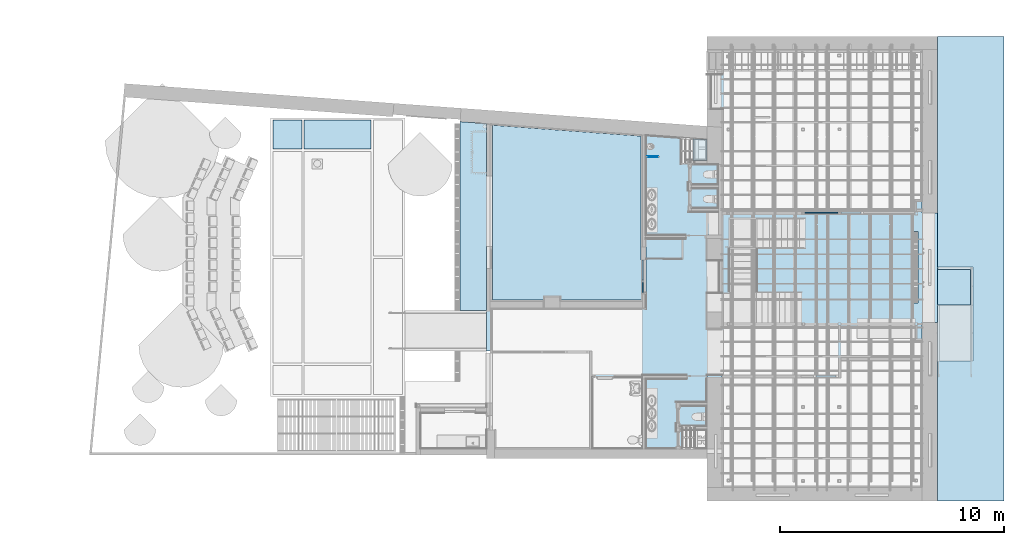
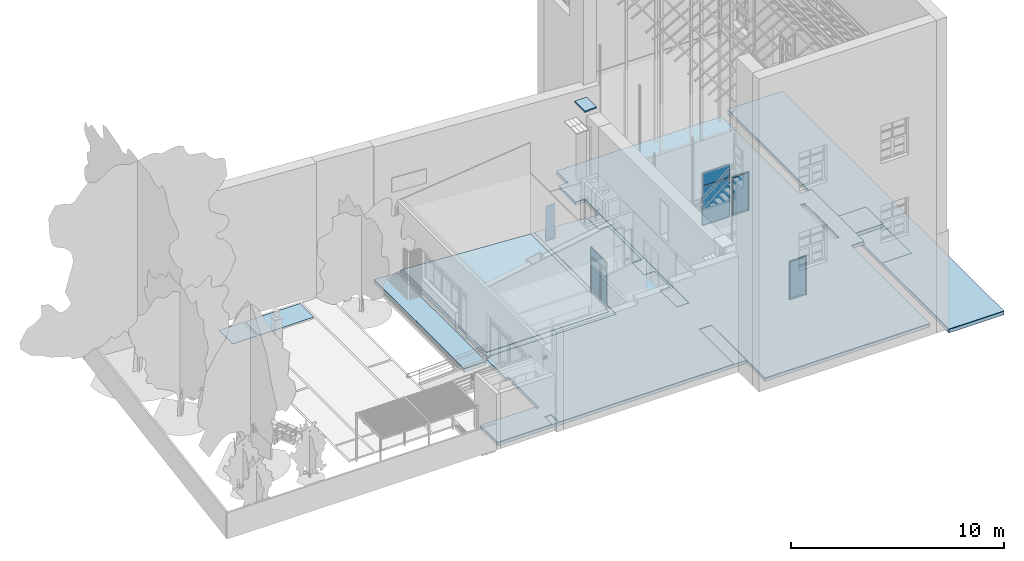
# One storey, part 31 of 75: 12 slabs, 8 plates, 2 openings, 6 elements without a shape of their own.
"""IFC2X3 building model written with IfcOpenShell, lengths in metres."""

import ifcopenshell
import ifcopenshell.guid

model = None  # the IFC model being written
_history = None  # IfcOwnerHistory: only IFC2X3 demands one
_inside = {}  # id of a spatial element -> (the spatial element, [elements in it])
_under = {}  # id of a project, library or spatial element -> (it, [spatial elements below it])
_declared = {}  # id of a project -> (the project, [libraries it declares])
_typed = {}  # id of a type object -> (the type object, [elements of that type])
_made_of = {}  # id of a material, layer set ... -> (it, [elements and type objects made of it])


def new_model(schema):
    """Start an empty IFC model of exactly this schema.

    Asked for "IFC4X3", IfcOpenShell would pick the latest addendum, in which some entities
    have other attributes; the version numbers below select the first issue.
    IFC2X3 requires an IfcOwnerHistory on every rooted entity: one is made here for all.
    """
    global model, _history
    if schema == "IFC4X3":
        model = ifcopenshell.file(schema_version=(4, 3, 0, 0))
    else:
        model = ifcopenshell.file(schema=schema)
    _inside.clear()
    _under.clear()
    _declared.clear()
    _typed.clear()
    _made_of.clear()
    _history = None
    if model.schema == "IFC2X3":
        org = make("IfcOrganization", Name="unknown")
        user = make(
            "IfcPersonAndOrganization",
            ThePerson=make("IfcPerson", FamilyName="unknown"),
            TheOrganization=org,
        )
        app = make(
            "IfcApplication",
            ApplicationDeveloper=org,
            Version="unknown",
            ApplicationFullName="unknown",
            ApplicationIdentifier="unknown",
        )
        _history = make(
            "IfcOwnerHistory",
            OwningUser=user,
            OwningApplication=app,
            ChangeAction="ADDED",
            CreationDate=0,
        )
    return model


def make(cls, **values):
    """One entity of the class cls with the attributes given. An attribute that is None is left unset."""
    return model.create_entity(
        cls, **{name: value for name, value in values.items() if value is not None}
    )


def entity(cls, *values):
    """Any entity or typed value of the class cls, its attributes in the order of the schema. None: left unset."""
    e = model.create_entity(cls)
    for i, value in enumerate(values):
        if value is not None:
            e[i] = value
    return e


def rooted(cls, **values):
    """An entity with a GlobalId (a new one), such as an element, a storey or a relation."""
    return make(cls, GlobalId=ifcopenshell.guid.new(), OwnerHistory=_history, **values)


def si_unit(unit_type, name, prefix=None):
    """IfcSIUnit, for example si_unit("LENGTHUNIT", "METRE", prefix="MILLI")."""
    return make("IfcSIUnit", UnitType=unit_type, Prefix=prefix, Name=name)


def converted_unit(unit_type, name, factor, base, dimensions=None, offset=None):
    """IfcConversionBasedUnit, such as the inch: factor (a typed value) times the base unit."""
    return make(
        "IfcConversionBasedUnit"
        if offset is None
        else "IfcConversionBasedUnitWithOffset",
        ConversionOffset=offset,
        Dimensions=None
        if dimensions is None
        else entity("IfcDimensionalExponents", *dimensions),
        UnitType=unit_type,
        Name=name,
        ConversionFactor=make(
            "IfcMeasureWithUnit", ValueComponent=factor, UnitComponent=base
        ),
    )


def derived_unit(unit_type, elements):
    """IfcDerivedUnit: a product of units, each with its exponent."""
    return make(
        "IfcDerivedUnit",
        Elements=[
            make("IfcDerivedUnitElement", Unit=unit, Exponent=power)
            for unit, power in elements
        ],
        UnitType=unit_type,
    )


def assignment(units):
    """IfcUnitAssignment: the units of a project."""
    return None if units is None else make("IfcUnitAssignment", Units=units)


def point(xyz):
    """IfcCartesianPoint."""
    return None if xyz is None else make("IfcCartesianPoint", Coordinates=xyz)


def direction(xyz):
    """IfcDirection."""
    return None if xyz is None else make("IfcDirection", DirectionRatios=xyz)


def frame(location, z_axis=None, x_axis=None):
    """IfcAxis2Placement3D, a coordinate frame: its origin and axes. An axis left out is left unset."""
    return make(
        "IfcAxis2Placement3D",
        Location=point(location),
        Axis=direction(z_axis),
        RefDirection=direction(x_axis),
    )


def frame_2d(location, x_axis=None):
    """IfcAxis2Placement2D, a coordinate frame in the plane: its origin and x axis."""
    return make(
        "IfcAxis2Placement2D", Location=point(location), RefDirection=direction(x_axis)
    )


def origin():
    """The frame at (0, 0, 0) with its axes left unset."""
    return frame((0.0, 0.0, 0.0))


def origin_2d_with_axis():
    """The frame at (0, 0) in the plane with the x axis (1, 0) written out."""
    return frame_2d((0.0, 0.0), x_axis=(1.0, 0.0))


def place(relative_to, where):
    """IfcLocalPlacement: puts the frame where relative to a parent placement (None: the world)."""
    return make(
        "IfcLocalPlacement", PlacementRelTo=relative_to, RelativePlacement=where
    )


def context(
    kind, dimensions, precision=None, world=None, true_north=None, identifier=None
):
    """IfcGeometricRepresentationContext, for example the 3D "Model" context."""
    return make(
        "IfcGeometricRepresentationContext",
        ContextIdentifier=identifier,
        ContextType=kind,
        CoordinateSpaceDimension=dimensions,
        Precision=precision,
        WorldCoordinateSystem=world,
        TrueNorth=true_north,
    )


def subcontext(parent, identifier, kind, view, scale=None):
    """IfcGeometricRepresentationSubContext, for example "Body" below "Model"."""
    return make(
        "IfcGeometricRepresentationSubContext",
        ContextIdentifier=identifier,
        ContextType=kind,
        ParentContext=parent,
        TargetScale=scale,
        TargetView=view,
    )


def project(units=None, contexts=None):
    """IfcProject with its units and contexts."""
    return rooted(
        "IfcProject",
        Name="project",
        RepresentationContexts=contexts,
        UnitsInContext=assignment(units),
    )


def spatial(cls, under=None, at=None, **own):
    """A site, building, storey or space (cls), placed at a placement, below another one or the project."""
    s = rooted(cls, ObjectPlacement=at, **own)
    if under is not None:
        _under.setdefault(under.id(), (under, []))[1].append(s)
    return s


def polyline(points):
    """IfcPolyline through the points."""
    return make("IfcPolyline", Points=[point(p) for p in points])


def profile(cls, at=None, kind="AREA", **sizes):
    """A parametric profile (cls). Its sizes go by their IFC names, for example OverallWidth=200.0."""
    return make(cls, ProfileType=kind, Position=at, **sizes)


def rectangle(**sizes):
    """IfcRectangleProfileDef."""
    return profile("IfcRectangleProfileDef", **sizes)


def outline(outer, holes=None, kind="AREA"):
    """IfcArbitraryClosedProfileDef: a profile drawn as a closed curve; with holes, ...WithVoids."""
    if holes is None:
        return make("IfcArbitraryClosedProfileDef", ProfileType=kind, OuterCurve=outer)
    return make(
        "IfcArbitraryProfileDefWithVoids",
        ProfileType=kind,
        OuterCurve=outer,
        InnerCurves=holes,
    )


def extrude(swept, where, along, depth):
    """IfcExtrudedAreaSolid: the profile swept, set in the frame where, extruded along a direction by depth."""
    return make(
        "IfcExtrudedAreaSolid",
        SweptArea=swept,
        Position=where,
        ExtrudedDirection=direction(along),
        Depth=depth,
    )


def shape(context_of_items, identifier, shape_type, items):
    """IfcShapeRepresentation: the items that make up one representation, for example the "Body"."""
    return make(
        "IfcShapeRepresentation",
        ContextOfItems=context_of_items,
        RepresentationIdentifier=identifier,
        RepresentationType=shape_type,
        Items=items,
    )


def source(mapping_origin, context_of_items, identifier, shape_type, items):
    """IfcRepresentationMap: a shape defined once, which mapped items show again and again."""
    return make(
        "IfcRepresentationMap",
        MappingOrigin=mapping_origin,
        MappedRepresentation=shape(context_of_items, identifier, shape_type, items),
    )


def transform(
    local_origin,
    x_axis=None,
    y_axis=None,
    z_axis=None,
    scale=None,
    scale2=None,
    scale3=None,
    uniform=True,
):
    """IfcCartesianTransformationOperator3D, or its non-uniform kind. x_axis, y_axis, z_axis: its Axis1, 2, 3."""
    if uniform:
        return make(
            "IfcCartesianTransformationOperator3D",
            Axis1=direction(x_axis),
            Axis2=direction(y_axis),
            LocalOrigin=point(local_origin),
            Scale=scale,
            Axis3=direction(z_axis),
        )
    return make(
        "IfcCartesianTransformationOperator3DnonUniform",
        Axis1=direction(x_axis),
        Axis2=direction(y_axis),
        LocalOrigin=point(local_origin),
        Scale=scale,
        Axis3=direction(z_axis),
        Scale2=scale2,
        Scale3=scale3,
    )


def mapped(mapping_source, mapping_target):
    """IfcMappedItem: shows the shape of a source again, moved by a transform."""
    return make(
        "IfcMappedItem", MappingSource=mapping_source, MappingTarget=mapping_target
    )


def material(Name=None, Category=None):
    """IfcMaterial."""
    return make("IfcMaterial", Name=Name, Category=Category)


def material_list(materials):
    """IfcMaterialList."""
    return make("IfcMaterialList", Materials=materials)


def layer(
    of_material, thickness, ventilated=None, Name=None, Category=None, Priority=None
):
    """IfcMaterialLayer: one layer of a wall or slab, of a material (None: an air gap)."""
    return make(
        "IfcMaterialLayer",
        Material=of_material,
        LayerThickness=thickness,
        IsVentilated=ventilated,
        Name=Name,
        Category=Category,
        Priority=Priority,
    )


def layer_set(layers, Name=None):
    """IfcMaterialLayerSet."""
    return make("IfcMaterialLayerSet", MaterialLayers=layers, LayerSetName=Name)


def layer_usage(for_layer_set, set_direction, sense, offset, extent=None):
    """IfcMaterialLayerSetUsage: how a layer set lies in its element."""
    return make(
        "IfcMaterialLayerSetUsage",
        ForLayerSet=for_layer_set,
        LayerSetDirection=set_direction,
        DirectionSense=sense,
        OffsetFromReferenceLine=offset,
        ReferenceExtent=extent,
    )


def made_of(thing, what):
    """Note that an element or type object is made of a material, layer set ...; save() writes the relation."""
    if what is not None:
        _made_of.setdefault(what.id(), (what, []))[1].append(thing)
    return thing


def type_object(cls, material=None, **own):
    """A type object (cls), such as IfcWallType, which elements share."""
    return made_of(rooted(cls, **own), material)


def type_shapes(of_type, sources):
    """Give a type object the sources (RepresentationMaps) that its elements show as mapped items."""
    of_type.RepresentationMaps = sources


def element(
    cls,
    number,
    at=None,
    inside=None,
    cuts=None,
    type_object=None,
    material=None,
    context=None,
    identifier="Body",
    shape_type=None,
    held_by="IfcProductDefinitionShape",
    body=None,
    shapes=None,
    **own,
):
    """One element of the class cls, such as IfcWall. Its Tag is "e" and its number.

    at: its placement. inside: the storey or other place that contains it. cuts: it is an
    opening in that element (IfcRelVoidsElement). A single representation is given by context,
    identifier, shape_type and body (its items); several are given by shapes. held_by: the class
    of the entity that holds the representations. save() writes the other relations.
    """
    e = rooted(cls, Tag="e%d" % number, ObjectPlacement=at, **own)
    if body is not None:
        shapes = [shape(context, identifier, shape_type, body)]
    if shapes is not None:
        e.Representation = make(held_by, Representations=shapes)
    if inside is not None:
        _inside.setdefault(inside.id(), (inside, []))[1].append(e)
    if cuts is not None:
        rooted(
            "IfcRelVoidsElement", RelatingBuildingElement=cuts, RelatedOpeningElement=e
        )
    if type_object is not None:
        _typed.setdefault(type_object.id(), (type_object, []))[1].append(e)
    return made_of(e, material)


def aggregate(whole, parts):
    """IfcRelAggregates: a whole, such as a stair, and the parts it consists of."""
    return rooted("IfcRelAggregates", RelatingObject=whole, RelatedObjects=parts)


def save(model, path):
    """Write the relations noted so far, then the file.

    IfcRelAggregates (storeys below a building ...), IfcRelContainedInSpatialStructure (elements
    in a storey), IfcRelDefinesByType, IfcRelAssociatesMaterial and IfcRelDeclares: one each for
    every whole, place, type object, material and project.
    """
    for whole, parts in _under.values():
        aggregate(whole, parts)
    for where, things in _inside.values():
        rooted(
            "IfcRelContainedInSpatialStructure",
            RelatedElements=things,
            RelatingStructure=where,
        )
    for kind, things in _typed.values():
        rooted("IfcRelDefinesByType", RelatedObjects=things, RelatingType=kind)
    for what, things in _made_of.values():
        rooted("IfcRelAssociatesMaterial", RelatedObjects=things, RelatingMaterial=what)
    for by, libraries in _declared.values():
        rooted("IfcRelDeclares", RelatingContext=by, RelatedDefinitions=libraries)
    model.write(path)


model = new_model("IFC2X3")

# Units and contexts
model_context = context("Model", 3, precision=1e-05, world=origin(), true_north=direction((6.12303176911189e-17, 1.0)))
body_context = subcontext(model_context, "Body", "Model", "MODEL_VIEW")
ifc_project = project(units=[si_unit("LENGTHUNIT", "METRE"), si_unit("AREAUNIT", "SQUARE_METRE"), si_unit("VOLUMEUNIT", "CUBIC_METRE"), converted_unit("PLANEANGLEUNIT", "DEGREE", entity("IfcRatioMeasure", 0.0174532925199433), si_unit("PLANEANGLEUNIT", "RADIAN"), dimensions=[0, 0, 0, 0, 0, 0, 0]), si_unit("MASSUNIT", "GRAM", prefix="KILO"), derived_unit("MASSDENSITYUNIT", [(si_unit("MASSUNIT", "GRAM", prefix="KILO"), 1), (si_unit("LENGTHUNIT", "METRE"), -3)]), derived_unit("MOMENTOFINERTIAUNIT", [(si_unit("LENGTHUNIT", "METRE"), 4)]), si_unit("TIMEUNIT", "SECOND"), si_unit("FREQUENCYUNIT", "HERTZ"), si_unit("THERMODYNAMICTEMPERATUREUNIT", "DEGREE_CELSIUS"), derived_unit("THERMALTRANSMITTANCEUNIT", [(si_unit("MASSUNIT", "GRAM", prefix="KILO"), 1), (si_unit("THERMODYNAMICTEMPERATUREUNIT", "KELVIN"), -1), (si_unit("TIMEUNIT", "SECOND"), -3)]), derived_unit("VOLUMETRICFLOWRATEUNIT", [(si_unit("LENGTHUNIT", "METRE"), 3), (si_unit("TIMEUNIT", "SECOND"), -1)]), si_unit("ELECTRICCURRENTUNIT", "AMPERE"), si_unit("ELECTRICVOLTAGEUNIT", "VOLT"), si_unit("POWERUNIT", "WATT"), si_unit("FORCEUNIT", "NEWTON", prefix="KILO"), si_unit("ILLUMINANCEUNIT", "LUX"), si_unit("LUMINOUSFLUXUNIT", "LUMEN"), si_unit("LUMINOUSINTENSITYUNIT", "CANDELA"), derived_unit("USERDEFINED", [(si_unit("MASSUNIT", "GRAM", prefix="KILO"), -1), (si_unit("LENGTHUNIT", "METRE"), -2), (si_unit("TIMEUNIT", "SECOND"), 3), (si_unit("LUMINOUSFLUXUNIT", "LUMEN"), 1)]), derived_unit("LINEARVELOCITYUNIT", [(si_unit("LENGTHUNIT", "METRE"), 1), (si_unit("TIMEUNIT", "SECOND"), -1)]), si_unit("PRESSUREUNIT", "PASCAL"), derived_unit("USERDEFINED", [(si_unit("LENGTHUNIT", "METRE"), -2), (si_unit("MASSUNIT", "GRAM", prefix="KILO"), 1), (si_unit("TIMEUNIT", "SECOND"), -2)]), derived_unit("LINEARFORCEUNIT", [(si_unit("MASSUNIT", "GRAM", prefix="KILO"), 1), (si_unit("LENGTHUNIT", "METRE"), 1), (si_unit("TIMEUNIT", "SECOND"), -2), (si_unit("LENGTHUNIT", "METRE"), -1)]), derived_unit("PLANARFORCEUNIT", [(si_unit("MASSUNIT", "GRAM", prefix="KILO"), 1), (si_unit("LENGTHUNIT", "METRE"), 1), (si_unit("TIMEUNIT", "SECOND"), -2), (si_unit("LENGTHUNIT", "METRE"), -2)])], contexts=[model_context])

# Site, building, storey
site_placement = place(None, origin())
site = spatial("IfcSite", under=ifc_project, at=site_placement, Name="Superficie", CompositionType="ELEMENT")
building_placement = place(site_placement, origin())
building = spatial("IfcBuilding", under=site, at=building_placement, Name="Telegestiones", CompositionType="ELEMENT")
storey_placement = place(building_placement, origin())
storey = spatial("IfcBuildingStorey", under=building, at=storey_placement, Name="Nivel 0_NPT", CompositionType="ELEMENT", Elevation=0.0)

# Slab, opening
ifc_material_1 = material(Name="Suelo por defecto")
ifc_layer_1 = layer(ifc_material_1, 0.18)
ifc_layer_set_1 = layer_set([ifc_layer_1], Name="Suelo:ARQ-SU-18 HoA")
ifc_layer_usage_1 = layer_usage(ifc_layer_set_1, "AXIS3", "POSITIVE", 0.0)
slab_type_1 = type_object("IfcSlabType", Name="Suelo:ARQ-SU-18 HoA", PredefinedType="FLOOR", material=ifc_layer_set_1)
slab_1_placement = place(storey_placement, frame((-7.44518737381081, -5.8063671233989, -0.2)))
slab_1 = element("IfcSlab", 1, at=slab_1_placement, inside=storey, type_object=slab_type_1, material=ifc_layer_usage_1, Name="Suelo:ARQ-SU-18 HoA", ObjectType="Suelo:ARQ-SU-18 HoA", PredefinedType="FLOOR", context=body_context, shape_type="SweptSolid", body=[
    extrude(outline(polyline([(-10.865, 9.77498717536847), (-10.865, 2.48998713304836), (-11.5449999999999, 2.48998713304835), (-11.5449999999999, -2.41001286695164), (-10.865, -2.41001286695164), (-10.865, -9.77498717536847), (-1.93447715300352, -9.7749871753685), (-1.93447715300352, -8.0550128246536), (8.22500000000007, -8.0550128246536), (11.545, -8.05501282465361), (11.545, -6.43501282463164), (8.58499999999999, -6.43501282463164), (8.58499999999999, -6.5550128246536), (8.43500000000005, -6.5550128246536), (8.43500000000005, -3.67473216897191), (8.58500000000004, -3.67473216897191), (8.58500000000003, -1.87501282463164), (8.43500000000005, -1.87501282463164), (8.43500000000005, -1.65962417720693), (8.43500000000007, 6.46391269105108), (-1.93447715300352, 5.70481248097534), (-1.93447715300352, 7.13998717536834), (-1.44947715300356, 7.13998717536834), (-1.44947715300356, 8.65998717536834), (-1.93447715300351, 8.65998717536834), (-1.93447715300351, 9.77498717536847), (-10.865, 9.77498717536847)])), frame((11.545, 9.7749871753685, 0.18), z_axis=(0.0, 0.0, -1.0), x_axis=(-1.0, 0.0, 0.0)), (0.0, 0.0, 1.0), 0.18),
])
opening_1_placement = place(slab_1_placement, frame((22.1172565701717, 9.83040390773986, 0.18)))
element("IfcOpeningElement", 2, at=opening_1_placement, cuts=slab_1, Name="Suelo:ARQ-SU-18 HoA:2", ObjectType="Opening", context=body_context, shape_type="SweptSolid", body=[
    extrude(rectangle(XDim=0.239999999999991, YDim=3.2, at=origin_2d_with_axis()), frame((0.0, 0.0, 0.0), z_axis=(0.0, 0.0, -1.0), x_axis=(-1.0, 0.0, 0.0)), (0.0, 0.0, 1.0), 0.18),
])

ifc_material_2 = material(Name="Porcelanato 60x60")
ifc_layer_2 = layer(ifc_material_2, 0.02)
ifc_layer_set_2 = layer_set([ifc_layer_2], Name="Suelo:ARQ-SU-2-Cer")
ifc_layer_usage_2 = layer_usage(ifc_layer_set_2, "AXIS3", "POSITIVE", 0.0)
slab_type_2 = type_object("IfcSlabType", Name="Suelo:ARQ-SU-2-Cer", PredefinedType="FLOOR", material=ifc_layer_set_2)
slab_2_placement = place(storey_placement, origin())
slab_2 = element("IfcSlab", 3, at=slab_2_placement, inside=storey, type_object=slab_type_2, material=ifc_layer_usage_2, Name="Suelo:ARQ-SU-2-Cer", ObjectType="Suelo:ARQ-SU-2-Cer", PredefinedType="FLOOR", context=body_context, shape_type="SweptSolid", body=[
    extrude(outline(polyline([(-1.93447715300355, 9.77498717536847), (-10.865, 9.77498717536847), (-10.865, 2.48998713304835), (-11.5449999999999, 2.48998713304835), (-11.5449999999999, -2.41001286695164), (-10.865, -2.41001286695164), (-10.865, -9.77498717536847), (-1.93447715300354, -9.77498717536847), (-1.93447715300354, -4.77508299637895), (-1.25447715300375, -4.77508299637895), (-1.25447715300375, -8.05501282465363), (8.22500000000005, -8.05501282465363), (8.22500000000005, -7.3550128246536), (8.58499999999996, -7.3550128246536), (8.58499999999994, -8.0550128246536), (11.5449999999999, -8.05501282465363), (11.5449999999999, -6.43501282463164), (8.58499999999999, -6.43501282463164), (8.58500000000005, -6.55501282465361), (8.43500000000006, -6.55501282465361), (8.43500000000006, -3.67501282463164), (8.58500000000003, -3.67501282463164), (8.58500000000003, -1.87501282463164), (8.43500000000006, -1.87501282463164), (8.43500000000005, -1.7640355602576), (1.47500000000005, -1.7640355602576), (1.47500000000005, 5.95440412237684), (-1.25447715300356, 5.75459205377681), (-1.25447715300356, 4.65498717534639), (-1.76447715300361, 4.65498717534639), (-1.7644771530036, 1.49498717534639), (-1.25447715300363, 1.49498717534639), (-1.25447715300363, 0.364987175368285), (-1.81447715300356, 0.364987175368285), (-1.81447715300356, -1.09501282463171), (-1.25447715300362, -1.09501282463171), (-1.25447715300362, -2.67501282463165), (-1.93447715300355, -2.67501282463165), (-1.93447715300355, 7.11498717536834), (-1.42447715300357, 7.11498717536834), (-1.42447715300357, 8.68498717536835), (-1.93447715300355, 8.68498717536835), (-1.93447715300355, 9.77498717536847)])), frame((4.09981262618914, 3.9686200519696, 0.0), z_axis=(0.0, 0.0, -1.0), x_axis=(-1.0, 0.0, 0.0)), (0.0, 0.0, 1.0), 0.02),
])
opening_2_placement = place(slab_2_placement, frame((14.6720691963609, 4.02403678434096, 0.0)))
element("IfcOpeningElement", 4, at=opening_2_placement, cuts=slab_2, Name="Suelo:ARQ-SU-2-Cer:2", ObjectType="Opening", context=body_context, shape_type="SweptSolid", body=[
    extrude(rectangle(XDim=3.2, YDim=0.240000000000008, at=origin_2d_with_axis()), frame((0.0, 0.0, 0.0), z_axis=(0.0, 0.0, 1.0), x_axis=(0.0, -1.0, 0.0)), (0.0, 0.0, -1.0), 0.02),
])

# Slabs
ifc_layer_usage_3 = layer_usage(ifc_layer_set_2, "AXIS3", "POSITIVE", 0.0)
slab_type_3 = type_object("IfcSlabType", Name="Suelo:ARQ-SU-2-Cer", PredefinedType="FLOOR", material=ifc_layer_set_2)
slab_3_placement = place(storey_placement, origin())
element("IfcSlab", 5, at=slab_3_placement, inside=storey, type_object=slab_type_3, material=ifc_layer_usage_3, Name="Suelo:ARQ-SU-2-Cer", ObjectType="Suelo:ARQ-SU-2-Cer", PredefinedType="FLOOR", context=body_context, shape_type="SweptSolid", body=[
    extrude(outline(polyline([(-2.42474056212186, -5.04314852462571), (5.39575336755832, -5.04314852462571), (4.90874852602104, 1.60944557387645), (-0.630721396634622, 1.60944557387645), (-0.630721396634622, 1.81685147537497), (-2.0967889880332, 1.81685147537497), (-2.0967889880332, 1.61685147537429), (-2.42474056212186, 1.61685147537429), (-2.42474056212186, -5.04314852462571)])), frame((0.807961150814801, 4.97932505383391, 0.0), z_axis=(0.0, 0.0, -1.0), x_axis=(0.0, 1.0, 0.0)), (0.0, 0.0, 1.0), 0.02),
])
ifc_material_3 = material(Name="Baldosones de hormigón 40x40")
ifc_layer_3 = layer(ifc_material_3, 0.02)
ifc_layer_set_3 = layer_set([ifc_layer_3], Name="Suelo:ARQ-SU-EX-2x40x40-BaldHorm")
ifc_layer_usage_4 = layer_usage(ifc_layer_set_3, "AXIS3", "POSITIVE", 0.0)
slab_type_4 = type_object("IfcSlabType", Name="Suelo:ARQ-SU-EX-2x40x40-BaldHorm", PredefinedType="FLOOR", material=ifc_layer_set_3)
slab_4_placement = place(storey_placement, frame((-8.14518737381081, -4.25639277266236, -0.17)))
element("IfcSlab", 6, at=slab_4_placement, inside=storey, type_object=slab_type_4, material=ifc_layer_usage_4, Name="Suelo:ARQ-SU-EX-2x40x40-BaldHorm:2", ObjectType="Suelo:ARQ-SU-EX-2x40x40-BaldHorm", PredefinedType="FLOOR", context=body_context, shape_type="SweptSolid", body=[
    extrude(outline(polyline([(-0.62987597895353, 7.39388084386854), (-1.82999999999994, 7.30602545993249), (-1.82999999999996, -1.04388084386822), (-0.62987597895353, -1.04388084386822), (-0.62987597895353, 7.39388084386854)])), frame((1.82999999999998, 7.39388084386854, 0.02), z_axis=(0.0, 0.0, -1.0), x_axis=(-1.0, 0.0, 0.0)), (0.0, 0.0, 1.0), 0.02),
])

# Curtain wall, plates
curtain_wall_type_1 = type_object("IfcCurtainWallType", PredefinedType="NOTDEFINED")
curtain_wall_1_placement = place(storey_placement, origin())
curtain_wall_1 = element("IfcCurtainWall", 7, at=curtain_wall_1_placement, inside=storey, type_object=curtain_wall_type_1)
ifc_material_4 = material(Name="Vidrio laminado")
ifc_material_5 = material(Name="Aluminio")
ifc_material_list_1 = material_list([ifc_material_4, ifc_material_5])
ifc_material_list_2 = material_list([ifc_material_4, ifc_material_5])
plate_type_1 = type_object("IfcPlateType", Name="ARQ-PA-IN-Vidrio Fijo Laminado :ARQ-PA-IN-Vidrio Fijo Laminado", PredefinedType="CURTAIN_PANEL", material=ifc_material_list_2)
shared_shape_1 = source(origin(), body_context, "Body", "SweptSolid", [
    extrude(rectangle(XDim=0.426767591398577, YDim=0.02, at=origin_2d_with_axis()), frame((0.0, 0.0, 0.0200000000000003), z_axis=(0.0, 0.0, 1.0), x_axis=(-1.0, 0.0, 0.0)), (0.0, 0.0, 1.0), 2.06),
    extrude(outline(polyline([(-0.233383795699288, -1.05), (0.233383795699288, -1.05), (0.233383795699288, 1.05), (-0.233383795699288, 1.05), (-0.233383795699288, -1.05)]), holes=[polyline([(-0.213383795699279, -1.03), (-0.213383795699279, 1.03), (0.213383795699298, 1.03), (0.213383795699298, -1.03), (-0.213383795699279, -1.03)])]), frame((0.0, -0.0175, 1.05), z_axis=(0.0, 1.0, 0.0), x_axis=(1.0, 0.0, 0.0)), (0.0, 0.0, 1.0), 0.035),
])
type_shapes(plate_type_1, [shared_shape_1])
plate_1_placement = place(curtain_wall_1_placement, frame((2.48532576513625, 3.1152198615, 0.0), z_axis=(0.0, 0.0, 1.0), x_axis=(0.0, 1.0, 0.0)))
plate_1 = element("IfcPlate", 8, at=plate_1_placement, type_object=plate_type_1, material=ifc_material_list_1, Name="ARQ-PA-IN-Vidrio Fijo Laminado :ARQ-PA-IN-Vidrio Fijo Laminado", ObjectType="ARQ-PA-IN-Vidrio Fijo Laminado :ARQ-PA-IN-Vidrio Fijo Laminado", context=body_context, shape_type="MappedRepresentation", body=[
    mapped(shared_shape_1, transform((0.0, 0.0, 0.0), scale=1.0)),
])
ifc_material_6 = material(Name="Vidrio")
ifc_material_list_3 = material_list([ifc_material_5, ifc_material_6, ifc_material_5, ifc_material_5])
ifc_material_list_4 = material_list([ifc_material_5, ifc_material_6])
plate_type_2 = type_object("IfcPlateType", Name="ARQ-PA-IN-AluVid-Puerta:ARQ-PA-IN-AluVid-Puerta", PredefinedType="CURTAIN_PANEL", material=ifc_material_list_4)
shared_shape_2 = source(origin(), body_context, "Body", "SweptSolid", [
    extrude(outline(polyline([(-0.450000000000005, -1.06), (0.449999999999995, -1.06), (0.449999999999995, 1.04), (0.410000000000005, 1.04), (0.410000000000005, -1.02), (-0.409999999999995, -1.02), (-0.409999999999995, 1.04), (-0.450000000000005, 1.04), (-0.450000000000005, -1.06)])), frame((0.0, -0.033, 1.04), z_axis=(0.0, 1.0, 0.0), x_axis=(1.0, 0.0, 0.0)), (0.0, 0.0, 1.0), 0.066),
    extrude(rectangle(XDim=0.64, YDim=0.015, at=frame_2d((0.0, -8.67361737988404e-19), x_axis=(1.0, 0.0))), frame((0.0, -0.0175, 0.0900000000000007), z_axis=(0.0, 0.0, 1.0), x_axis=(-1.0, 0.0, 0.0)), (0.0, 0.0, 1.0), 1.88),
    extrude(outline(polyline([(-0.34, -0.96), (0.34, -0.96), (0.34, 0.96), (-0.34, 0.96), (-0.34, -0.96)]), holes=[polyline([(-0.32, -0.94), (-0.32, 0.94), (0.32, 0.94), (0.32, -0.94), (-0.32, -0.94)])]), frame((0.0, -0.03, 1.03), z_axis=(0.0, 1.0, 0.0), x_axis=(1.0, 0.0, 0.0)), (0.0, 0.0, 1.0), 0.025),
    extrude(outline(polyline([(-0.41, -1.03), (0.41, -1.03), (0.41, 1.03), (-0.41, 1.03), (-0.41, -1.03)]), holes=[polyline([(-0.34, -0.96), (-0.34, 0.96), (0.34, 0.96), (0.34, -0.96), (-0.34, -0.96)])]), frame((0.0, -0.035, 1.03), z_axis=(0.0, 1.0, 0.0), x_axis=(1.0, 0.0, 0.0)), (0.0, 0.0, 1.0), 0.035),
])
type_shapes(plate_type_2, [shared_shape_2])
plate_2_placement = place(curtain_wall_1_placement, frame((2.48532576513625, 3.89860365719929, 0.0), z_axis=(0.0, 0.0, 1.0), x_axis=(0.0, 1.0, 0.0)))
plate_2 = element("IfcPlate", 9, at=plate_2_placement, type_object=plate_type_2, material=ifc_material_list_3, Name="ARQ-PA-IN-AluVid-Puerta:ARQ-PA-IN-AluVid-Puerta", ObjectType="ARQ-PA-IN-AluVid-Puerta:ARQ-PA-IN-AluVid-Puerta", context=body_context, shape_type="MappedRepresentation", body=[
    mapped(shared_shape_2, transform((0.0, 0.0, 0.0), scale=1.0)),
])
ifc_material_list_5 = material_list([ifc_material_6, ifc_material_5])
ifc_material_list_6 = material_list([ifc_material_6, ifc_material_5])
plate_type_3 = type_object("IfcPlateType", Name="ARQ-PA-IN-Vidrio Fijo:ARQ-PA-IN-Vidrio Fijo", PredefinedType="CURTAIN_PANEL", material=ifc_material_list_6)
shared_shape_3 = source(origin(), body_context, "Body", "SweptSolid", [
    extrude(rectangle(XDim=1.46676759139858, YDim=0.02, at=origin_2d_with_axis()), frame((0.0, 0.0, 0.0), z_axis=(0.0, 0.0, 1.0), x_axis=(-1.0, 0.0, 0.0)), (0.0, 0.0, 1.0), 0.45),
    extrude(outline(polyline([(-0.733383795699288, -0.225), (0.733383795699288, -0.225), (0.733383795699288, 0.225), (-0.733383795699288, 0.225), (-0.733383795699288, -0.225)]), holes=[polyline([(-0.713383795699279, -0.205), (-0.713383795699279, 0.205), (0.713383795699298, 0.205), (0.713383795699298, -0.205), (-0.713383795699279, -0.205)])]), frame((0.0, -0.0175, 0.225), z_axis=(0.0, 1.0, 0.0), x_axis=(1.0, 0.0, 0.0)), (0.0, 0.0, 1.0), 0.035),
])
type_shapes(plate_type_3, [shared_shape_3])
plate_3_placement = place(curtain_wall_1_placement, frame((2.48532576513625, 3.6152198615, 2.15), z_axis=(0.0, 0.0, 1.0), x_axis=(0.0, 1.0, 0.0)))
plate_3 = element("IfcPlate", 10, at=plate_3_placement, type_object=plate_type_3, material=ifc_material_list_5, Name="ARQ-PA-IN-Vidrio Fijo:ARQ-PA-IN-Vidrio Fijo", ObjectType="ARQ-PA-IN-Vidrio Fijo:ARQ-PA-IN-Vidrio Fijo", context=body_context, shape_type="MappedRepresentation", body=[
    mapped(shared_shape_3, transform((0.0, 0.0, 0.0), scale=1.0)),
])
aggregate(curtain_wall_1, [plate_1, plate_2, plate_3])

# Curtain wall, plate
curtain_wall_type_2 = type_object("IfcCurtainWallType", PredefinedType="NOTDEFINED")
curtain_wall_2_placement = place(storey_placement, origin())
curtain_wall_2 = element("IfcCurtainWall", 11, at=curtain_wall_2_placement, inside=storey, type_object=curtain_wall_type_2)
ifc_material_list_7 = material_list([ifc_material_5, ifc_material_6, ifc_material_5, ifc_material_5])
ifc_material_list_8 = material_list([ifc_material_5, ifc_material_6])
plate_type_4 = type_object("IfcPlateType", Name="ARQ-PA-IN-AluVid-Puerta:ARQ-PA-IN-AluVid-Puerta", PredefinedType="CURTAIN_PANEL", material=ifc_material_list_8)
shared_shape_4 = source(origin(), body_context, "Body", "SweptSolid", [
    extrude(outline(polyline([(-0.450000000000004, -1.11), (0.449999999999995, -1.11), (0.449999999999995, 1.09), (0.410000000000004, 1.09), (0.410000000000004, -1.07), (-0.409999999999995, -1.07), (-0.409999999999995, 1.09), (-0.450000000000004, 1.09), (-0.450000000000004, -1.11)])), frame((0.0, -0.033, 1.09), z_axis=(0.0, 1.0, 0.0), x_axis=(1.0, 0.0, 0.0)), (0.0, 0.0, 1.0), 0.066),
    extrude(rectangle(XDim=0.015, YDim=0.639999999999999, at=frame_2d((-8.67361737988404e-19, -2.77555756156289e-17), x_axis=(1.0, 0.0))), frame((0.0, 0.0175, 0.0900000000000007), z_axis=(0.0, 0.0, 1.0), x_axis=(0.0, 1.0, 0.0)), (0.0, 0.0, 1.0), 1.98),
    extrude(outline(polyline([(-0.339999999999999, -1.01), (0.339999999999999, -1.01), (0.339999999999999, 1.01), (-0.339999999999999, 1.01), (-0.339999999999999, -1.01)]), holes=[polyline([(-0.319999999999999, -0.99), (-0.319999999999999, 0.99), (0.319999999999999, 0.99), (0.319999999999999, -0.99), (-0.319999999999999, -0.99)])]), frame((0.0, 0.005, 1.08), z_axis=(0.0, 1.0, 0.0), x_axis=(1.0, 0.0, 0.0)), (0.0, 0.0, 1.0), 0.025),
    extrude(outline(polyline([(-0.409999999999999, -1.08), (0.409999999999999, -1.08), (0.409999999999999, 1.08), (-0.409999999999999, 1.08), (-0.409999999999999, -1.08)]), holes=[polyline([(-0.339999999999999, -1.01), (-0.339999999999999, 1.01), (0.339999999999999, 1.01), (0.339999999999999, -1.01), (-0.339999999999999, -1.01)])]), frame((0.0, 0.0, 1.08), z_axis=(0.0, 1.0, 0.0), x_axis=(1.0, 0.0, 0.0)), (0.0, 0.0, 1.0), 0.035),
])
type_shapes(plate_type_4, [shared_shape_4])
plate_4_placement = place(curtain_wall_2_placement, frame((10.6738493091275, -0.846462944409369, 0.0)))
plate_4 = element("IfcPlate", 12, at=plate_4_placement, type_object=plate_type_4, material=ifc_material_list_7, Name="ARQ-PA-IN-AluVid-Puerta:ARQ-PA-IN-AluVid-Puerta", ObjectType="ARQ-PA-IN-AluVid-Puerta:ARQ-PA-IN-AluVid-Puerta", context=body_context, shape_type="MappedRepresentation", body=[
    mapped(shared_shape_4, transform((0.0, 0.0, 0.0), scale=1.0)),
])
aggregate(curtain_wall_2, [plate_4])

# Curtain wall, plates
curtain_wall_type_3 = type_object("IfcCurtainWallType", PredefinedType="NOTDEFINED")
curtain_wall_3_placement = place(storey_placement, origin())
curtain_wall_3 = element("IfcCurtainWall", 13, at=curtain_wall_3_placement, inside=storey, type_object=curtain_wall_type_3)
ifc_material_list_9 = material_list([ifc_material_4, ifc_material_5])
ifc_material_list_10 = material_list([ifc_material_4, ifc_material_5])
plate_type_5 = type_object("IfcPlateType", Name="ARQ-PA-IN-Vidrio Fijo Laminado :ARQ-PA-IN-Vidrio Fijo Laminado", PredefinedType="CURTAIN_PANEL", material=ifc_material_list_10)
shared_shape_5 = source(origin(), body_context, "Body", "SweptSolid", [
    extrude(rectangle(XDim=0.02, YDim=1.42399960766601, at=origin_2d_with_axis()), frame((0.0, 0.0, 0.0200000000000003), z_axis=(0.0, 0.0, 1.0), x_axis=(0.0, 1.0, 0.0)), (0.0, 0.0, 1.0), 2.16),
    extrude(outline(polyline([(-0.731999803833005, -1.1), (0.731999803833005, -1.1), (0.731999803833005, 1.1), (-0.731999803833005, 1.1), (-0.731999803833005, -1.1)]), holes=[polyline([(-0.711999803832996, -1.08), (-0.711999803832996, 1.08), (0.711999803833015, 1.08), (0.711999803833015, -1.08), (-0.711999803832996, -1.08)])]), frame((0.0, -0.0175, 1.1), z_axis=(0.0, 1.0, 0.0), x_axis=(1.0, 0.0, 0.0)), (0.0, 0.0, 1.0), 0.035),
])
type_shapes(plate_type_5, [shared_shape_5])
plate_5_placement = place(curtain_wall_3_placement, frame((10.4638126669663, 6.45996042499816, 0.0), z_axis=(0.0, 0.0, 1.0), x_axis=(-1.0, 0.0, 0.0)))
plate_5 = element("IfcPlate", 14, at=plate_5_placement, type_object=plate_type_5, material=ifc_material_list_9, Name="ARQ-PA-IN-Vidrio Fijo Laminado :ARQ-PA-IN-Vidrio Fijo Laminado", ObjectType="ARQ-PA-IN-Vidrio Fijo Laminado :ARQ-PA-IN-Vidrio Fijo Laminado", context=body_context, shape_type="MappedRepresentation", body=[
    mapped(shared_shape_5, transform((0.0, 0.0, 0.0), scale=1.0)),
])
ifc_material_list_11 = material_list([ifc_material_6, ifc_material_5])
ifc_material_list_12 = material_list([ifc_material_6, ifc_material_5])
plate_type_6 = type_object("IfcPlateType", Name="ARQ-PA-IN-Vidrio Fijo:ARQ-PA-IN-Vidrio Fijo", PredefinedType="CURTAIN_PANEL", material=ifc_material_list_12)
shared_shape_6 = source(origin(), body_context, "Body", "SweptSolid", [
    extrude(rectangle(XDim=0.02, YDim=1.46399960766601, at=origin_2d_with_axis()), frame((0.0, 0.0, 0.0), z_axis=(0.0, 0.0, 1.0), x_axis=(0.0, 1.0, 0.0)), (0.0, 0.0, 1.0), 0.75),
    extrude(outline(polyline([(-0.731999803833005, -0.375), (0.731999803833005, -0.375), (0.731999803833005, 0.375), (-0.731999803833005, 0.375), (-0.731999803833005, -0.375)]), holes=[polyline([(-0.711999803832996, -0.355), (-0.711999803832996, 0.355), (0.711999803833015, 0.355), (0.711999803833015, -0.355), (-0.711999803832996, -0.355)])]), frame((0.0, -0.0175, 0.375), z_axis=(0.0, 1.0, 0.0), x_axis=(1.0, 0.0, 0.0)), (0.0, 0.0, 1.0), 0.035),
])
type_shapes(plate_type_6, [shared_shape_6])
plate_6_placement = place(curtain_wall_3_placement, frame((10.4638126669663, 6.45996042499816, 2.25), z_axis=(0.0, 0.0, 1.0), x_axis=(-1.0, 0.0, 0.0)))
plate_6 = element("IfcPlate", 15, at=plate_6_placement, type_object=plate_type_6, material=ifc_material_list_11, Name="ARQ-PA-IN-Vidrio Fijo:ARQ-PA-IN-Vidrio Fijo", ObjectType="ARQ-PA-IN-Vidrio Fijo:ARQ-PA-IN-Vidrio Fijo", context=body_context, shape_type="MappedRepresentation", body=[
    mapped(shared_shape_6, transform((0.0, 0.0, 0.0), scale=1.0)),
])
aggregate(curtain_wall_3, [plate_5, plate_6])

# Curtain wall, plate
curtain_wall_type_4 = type_object("IfcCurtainWallType", PredefinedType="NOTDEFINED")
curtain_wall_4_placement = place(storey_placement, origin())
curtain_wall_4 = element("IfcCurtainWall", 16, at=curtain_wall_4_placement, inside=storey, type_object=curtain_wall_type_4)
ifc_material_list_13 = material_list([ifc_material_5, ifc_material_6, ifc_material_5, ifc_material_5])
ifc_material_list_14 = material_list([ifc_material_5, ifc_material_6])
plate_type_7 = type_object("IfcPlateType", Name="ARQ-PA-IN-AluVid-Puerta:ARQ-PA-IN-AluVid-Puerta", PredefinedType="CURTAIN_PANEL", material=ifc_material_list_14)
shared_shape_7 = source(origin(), body_context, "Body", "SweptSolid", [
    extrude(outline(polyline([(-0.450000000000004, -1.11), (0.449999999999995, -1.11), (0.449999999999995, 1.09), (0.410000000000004, 1.09), (0.410000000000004, -1.07), (-0.409999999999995, -1.07), (-0.409999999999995, 1.09), (-0.450000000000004, 1.09), (-0.450000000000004, -1.11)])), frame((0.0, -0.033, 1.09), z_axis=(0.0, 1.0, 0.0), x_axis=(1.0, 0.0, 0.0)), (0.0, 0.0, 1.0), 0.066),
    extrude(rectangle(XDim=0.639999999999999, YDim=0.015, at=frame_2d((0.0, -8.67361737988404e-19), x_axis=(1.0, 0.0))), frame((0.0, -0.0175, 0.0900000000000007), z_axis=(0.0, 0.0, 1.0), x_axis=(-1.0, 0.0, 0.0)), (0.0, 0.0, 1.0), 1.98),
    extrude(outline(polyline([(-0.339999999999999, -1.01), (0.339999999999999, -1.01), (0.339999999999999, 1.01), (-0.339999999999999, 1.01), (-0.339999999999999, -1.01)]), holes=[polyline([(-0.319999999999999, -0.99), (-0.319999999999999, 0.99), (0.319999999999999, 0.99), (0.319999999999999, -0.99), (-0.319999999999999, -0.99)])]), frame((0.0, -0.03, 1.08), z_axis=(0.0, 1.0, 0.0), x_axis=(1.0, 0.0, 0.0)), (0.0, 0.0, 1.0), 0.025),
    extrude(outline(polyline([(-0.409999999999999, -1.08), (0.409999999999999, -1.08), (0.409999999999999, 1.08), (-0.409999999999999, 1.08), (-0.409999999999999, -1.08)]), holes=[polyline([(-0.339999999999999, -1.01), (-0.339999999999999, 1.01), (0.339999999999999, 1.01), (0.339999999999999, -1.01), (-0.339999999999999, -1.01)])]), frame((0.0, -0.035, 1.08), z_axis=(0.0, 1.0, 0.0), x_axis=(1.0, 0.0, 0.0)), (0.0, 0.0, 1.0), 0.035),
])
type_shapes(plate_type_7, [shared_shape_7])
plate_7_placement = place(curtain_wall_4_placement, frame((11.7968128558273, 6.45996042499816, 0.0), z_axis=(0.0, 0.0, 1.0), x_axis=(-1.0, 0.0, 0.0)))
plate_7 = element("IfcPlate", 17, at=plate_7_placement, type_object=plate_type_7, material=ifc_material_list_13, Name="ARQ-PA-IN-AluVid-Puerta:ARQ-PA-IN-AluVid-Puerta", ObjectType="ARQ-PA-IN-AluVid-Puerta:ARQ-PA-IN-AluVid-Puerta", context=body_context, shape_type="MappedRepresentation", body=[
    mapped(shared_shape_7, transform((0.0, 0.0, 0.0), scale=1.0)),
])
aggregate(curtain_wall_4, [plate_7])

# Slabs
ifc_layer_4 = layer(ifc_material_1, 0.2)
ifc_layer_set_4 = layer_set([ifc_layer_4], Name="Suelo:ARQ-SU-20 HoA")
ifc_layer_usage_5 = layer_usage(ifc_layer_set_4, "AXIS3", "POSITIVE", 0.0)
slab_type_5 = type_object("IfcSlabType", Name="Suelo:ARQ-SU-20 HoA", PredefinedType="FLOOR", material=ifc_layer_set_4)
slab_5_placement = place(storey_placement, frame((-8.14518737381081, -4.25639277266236, -0.37)))
element("IfcSlab", 18, at=slab_5_placement, inside=storey, type_object=slab_type_5, material=ifc_layer_usage_5, Name="Suelo:ARQ-SU-20 HoA:2", ObjectType="Suelo:ARQ-SU-20 HoA", PredefinedType="FLOOR", context=body_context, shape_type="SweptSolid", body=[
    extrude(outline(polyline([(-1.82999999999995, -1.04388084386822), (-0.629875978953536, -1.04388084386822), (-0.629875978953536, 7.39388084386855), (-1.82999999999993, 7.3060254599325), (-1.82999999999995, -1.04388084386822)])), frame((1.82999999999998, 7.39388084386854, 0.2), z_axis=(0.0, 0.0, -1.0), x_axis=(-1.0, 0.0, 0.0)), (0.0, 0.0, 1.0), 0.2),
])
ifc_material_7 = material(Name="Hormigón, acabado con escobilla")
ifc_layer_5 = layer(ifc_material_7, 0.02)
ifc_layer_set_5 = layer_set([ifc_layer_5], Name="Suelo:ARQ-SU-EX-2-HormRay")
ifc_layer_usage_6 = layer_usage(ifc_layer_set_5, "AXIS3", "POSITIVE", 0.0)
slab_type_6 = type_object("IfcSlabType", Name="Suelo:ARQ-SU-EX-2-HormRay", PredefinedType="FLOOR")
slab_6_placement = place(storey_placement, frame((-14.0387427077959, -1.65500659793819, -0.2)))
element("IfcSlab", 19, at=slab_6_placement, inside=storey, type_object=slab_type_6, material=ifc_layer_usage_6, Name="Suelo:ARQ-SU-EX-2-HormRay:3", ObjectType="Suelo:ARQ-SU-EX-2-HormRay", PredefinedType="FLOOR", context=body_context, shape_type="SweptSolid", body=[
    extrude(rectangle(XDim=1.3, YDim=2.99564918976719, at=frame_2d((0.00217540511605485, 5.47691283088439), x_axis=(0.0, 1.0))), frame((2.9, 6.12691283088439, 0.02), z_axis=(0.0, 0.0, -1.0), x_axis=(-1.0, 0.0, 0.0)), (0.0, 0.0, 1.0), 0.02),
])
slab_type_7 = type_object("IfcSlabType", Name="Suelo:ARQ-SU-EX-2-HormRay", PredefinedType="FLOOR")
slab_7_placement = place(storey_placement, frame((-14.0387427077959, -1.65500659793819, -0.2)))
element("IfcSlab", 20, at=slab_7_placement, inside=storey, type_object=slab_type_7, material=ifc_layer_usage_6, Name="Suelo:ARQ-SU-EX-2-HormRay:5", ObjectType="Suelo:ARQ-SU-EX-2-HormRay", PredefinedType="FLOOR", context=body_context, shape_type="SweptSolid", body=[
    extrude(rectangle(XDim=1.30000000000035, YDim=1.3, at=frame_2d((2.24999999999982, 5.47691283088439), x_axis=(1.0, 0.0))), frame((2.9, 6.12691283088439, 0.02), z_axis=(0.0, 0.0, -1.0), x_axis=(-1.0, 0.0, 0.0)), (0.0, 0.0, 1.0), 0.02),
])
ifc_layer_usage_7 = layer_usage(ifc_layer_set_1, "AXIS3", "POSITIVE", 0.0)
slab_type_8 = type_object("IfcSlabType", Name="Suelo:ARQ-SU-18 HoA", PredefinedType="FLOOR", material=ifc_layer_set_1)
slab_8_placement = place(storey_placement, origin())
element("IfcSlab", 21, at=slab_8_placement, inside=storey, type_object=slab_type_8, material=ifc_layer_usage_7, Name="Suelo:ARQ-SU-18 HoA", ObjectType="Suelo:ARQ-SU-18 HoA", PredefinedType="FLOOR", context=body_context, shape_type="SweptSolid", body=[
    extrude(rectangle(XDim=1.6, YDim=1.49198149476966, at=frame_2d((-5.55111512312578e-16, -1.0547118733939e-15), x_axis=(1.0, 0.0))), frame((16.3908033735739, 3.13613271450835, -0.02), z_axis=(0.0, 0.0, -1.0), x_axis=(0.0, 1.0, 0.0)), (0.0, 0.0, 1.0), 0.18),
])
ifc_layer_usage_8 = layer_usage(ifc_layer_set_3, "AXIS3", "POSITIVE", 0.0)
slab_type_9 = type_object("IfcSlabType", Name="Suelo:ARQ-SU-EX-2x40x40-BaldHorm", PredefinedType="FLOOR", material=ifc_layer_set_3)
slab_9_placement = place(storey_placement, origin())
element("IfcSlab", 22, at=slab_9_placement, inside=storey, type_object=slab_type_9, material=ifc_layer_usage_8, Name="Suelo:ARQ-SU-EX-2x40x40-BaldHorm", ObjectType="Suelo:ARQ-SU-EX-2x40x40-BaldHorm", PredefinedType="FLOOR", context=body_context, shape_type="SweptSolid", body=[
    extrude(rectangle(XDim=1.6, YDim=1.49198149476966, at=frame_2d((-5.55111512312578e-16, -1.0547118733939e-15), x_axis=(1.0, 0.0))), frame((16.3908033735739, 3.13613271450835, 0.0), z_axis=(0.0, 0.0, -1.0), x_axis=(0.0, 1.0, 0.0)), (0.0, 0.0, 1.0), 0.02),
])

# Roof, slab
roof_placement = place(storey_placement, frame((4.73428977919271, 8.80360722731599, 6.7827)))
roof = element("IfcRoof", 23, at=roof_placement, inside=storey, Name="Cubierta básica:ARQ-CU-EXT-8-HoA", ObjectType="Cubierta básica:ARQ-CU-EXT-8-HoA", ShapeType="NOTDEFINED")
ifc_material_8 = material(Name="Hormigón, C20/25")
ifc_layer_6 = layer(ifc_material_8, 0.08)
ifc_layer_set_6 = layer_set([ifc_layer_6], Name="Cubierta básica:ARQ-CU-EXT-8-HoA")
slab_type_10 = type_object("IfcSlabType", Name="Cubierta básica:ARQ-CU-EXT-8-HoA", PredefinedType="ROOF")
slab_10_placement = place(roof_placement, origin())
slab_10 = element("IfcSlab", 24, at=slab_10_placement, type_object=slab_type_10, material=ifc_layer_set_6, Name="Cubierta básica:ARQ-CU-EXT-8-HoA", ObjectType="Cubierta básica:ARQ-CU-EXT-8-HoA", PredefinedType="ROOF", context=body_context, shape_type="SweptSolid", body=[
    extrude(outline(polyline([(0.310557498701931, -0.482496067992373), (0.31055749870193, 0.437108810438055), (-0.31055749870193, 0.482496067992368), (-0.31055749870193, -0.482496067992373), (0.310557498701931, -0.482496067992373)])), frame((0.31, 0.482496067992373, 0.0186000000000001), z_axis=(-0.0598922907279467, 0.0, 0.998204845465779), x_axis=(0.998204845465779, 0.0, 0.0598922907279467)), (0.0598922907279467, 0.0, 0.998204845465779), 0.0801438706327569),
])
aggregate(roof, [slab_10])

# Slabs
ifc_layer_usage_9 = layer_usage(ifc_layer_set_3, "AXIS3", "POSITIVE", 0.0)
slab_type_11 = type_object("IfcSlabType", Name="Suelo:ARQ-SU-EX-2x40x40-BaldHorm", PredefinedType="FLOOR", material=ifc_layer_set_3)
slab_11_placement = place(storey_placement, origin())
element("IfcSlab", 25, at=slab_11_placement, inside=storey, type_object=slab_type_11, material=ifc_layer_usage_9, Name="Suelo:ARQ-SU-EX-2x40x40-BaldHorm", ObjectType="Suelo:ARQ-SU-EX-2x40x40-BaldHorm", PredefinedType="FLOOR", context=body_context, shape_type="SweptSolid", body=[
    extrude(outline(polyline([(-9.35874350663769, -1.1429953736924), (-3.11624366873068, -1.1429953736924), (-3.11624366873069, 0.448986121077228), (1.08375633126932, 0.448986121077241), (1.08375633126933, -1.1429953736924), (11.3912308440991, -1.1429953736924), (11.3912308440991, 1.83700462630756), (-9.35874350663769, 1.83700462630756), (-9.35874350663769, -1.1429953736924)])), frame((16.7878079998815, 2.95237638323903, -0.2), z_axis=(0.0, 0.0, -1.0), x_axis=(0.0, 1.0, 0.0)), (0.0, 0.0, 1.0), 0.02),
])
ifc_layer_usage_10 = layer_usage(ifc_layer_set_4, "AXIS3", "POSITIVE", 0.0)
slab_type_12 = type_object("IfcSlabType", Name="Suelo:ARQ-SU-20 HoA", PredefinedType="FLOOR", material=ifc_layer_set_4)
slab_12_placement = place(storey_placement, origin())
element("IfcSlab", 26, at=slab_12_placement, inside=storey, type_object=slab_type_12, material=ifc_layer_usage_10, Name="Suelo:ARQ-SU-20 HoA", ObjectType="Suelo:ARQ-SU-20 HoA", PredefinedType="FLOOR", context=body_context, shape_type="SweptSolid", body=[
    extrude(rectangle(XDim=20.7499743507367, YDim=2.98, at=frame_2d((0.0, -1.11022302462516e-15), x_axis=(1.0, 0.0))), frame((17.1348126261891, 3.96862005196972, -0.22), z_axis=(0.0, 0.0, -1.0), x_axis=(0.0, 1.0, 0.0)), (0.0, 0.0, 1.0), 0.2),
])

# Curtain wall, plate
curtain_wall_type_5 = type_object("IfcCurtainWallType", PredefinedType="NOTDEFINED")
curtain_wall_5_placement = place(storey_placement, origin())
curtain_wall_5 = element("IfcCurtainWall", 27, at=curtain_wall_5_placement, inside=storey, type_object=curtain_wall_type_5)
ifc_material_9 = material(Name="<Unnamed>")
plate_type_8 = type_object("IfcPlateType", Name="Panel de sistema:Opaco", PredefinedType="CURTAIN_PANEL", material=ifc_material_9)
shared_shape_8 = source(origin(), body_context, "Body", "SweptSolid", [
    extrude(rectangle(XDim=0.025, YDim=0.5, at=origin_2d_with_axis()), frame((0.0, 0.0, 0.0), z_axis=(0.0, 0.0, 1.0), x_axis=(0.0, 1.0, 0.0)), (0.0, 0.0, 1.0), 2.0),
])
type_shapes(plate_type_8, [shared_shape_8])
plate_8_placement = place(curtain_wall_5_placement, frame((2.93740672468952, 8.96204870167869, 0.05)))
plate_8 = element("IfcPlate", 28, at=plate_8_placement, type_object=plate_type_8, material=ifc_material_9, Name="Panel de sistema:Opaco", ObjectType="Panel de sistema:Opaco", context=body_context, shape_type="MappedRepresentation", body=[
    mapped(shared_shape_8, transform((0.0, 0.0, 0.0), scale=1.0)),
])
aggregate(curtain_wall_5, [plate_8])

save(model, "model.ifc")
